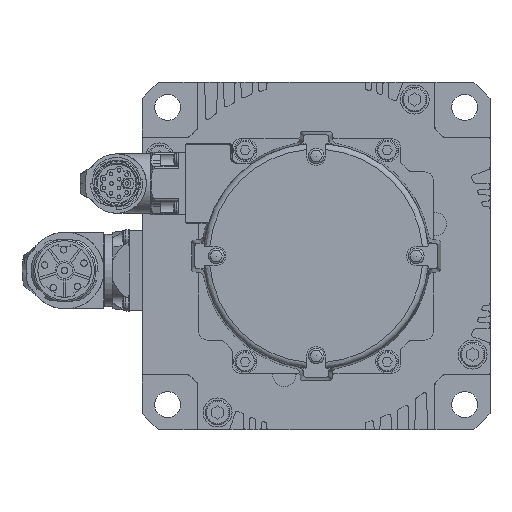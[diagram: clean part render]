
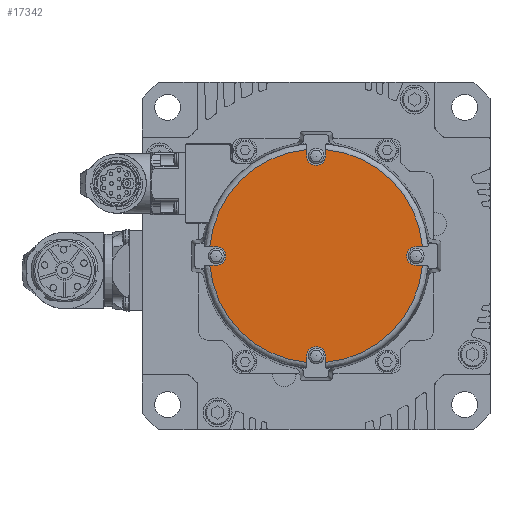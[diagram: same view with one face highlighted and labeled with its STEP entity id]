
A CAD part, left-side view. The second image highlights one B-rep face of the part: STEP entity #17342.
In plain terms, the highlighted planar face has unit normal (-1, 0, 0).
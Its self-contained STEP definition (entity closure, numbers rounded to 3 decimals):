
#853=LINE('',#26686,#2320);
#854=LINE('',#26690,#2321);
#855=LINE('',#26694,#2322);
#856=LINE('',#26698,#2323);
#857=LINE('',#26702,#2324);
#858=LINE('',#26706,#2325);
#859=LINE('',#26710,#2326);
#860=LINE('',#26714,#2327);
#2320=VECTOR('',#20947,1000.);
#2321=VECTOR('',#20950,1000.);
#2322=VECTOR('',#20953,1000.);
#2323=VECTOR('',#20956,1000.);
#2324=VECTOR('',#20959,1000.);
#2325=VECTOR('',#20962,1000.);
#2326=VECTOR('',#20965,1000.);
#2327=VECTOR('',#20968,1000.);
#3985=ORIENTED_EDGE('',*,*,#9243,.T.);
#3986=ORIENTED_EDGE('',*,*,#9244,.F.);
#3987=ORIENTED_EDGE('',*,*,#9245,.F.);
#3988=ORIENTED_EDGE('',*,*,#9246,.F.);
#3989=ORIENTED_EDGE('',*,*,#9247,.T.);
#3990=ORIENTED_EDGE('',*,*,#9248,.F.);
#3991=ORIENTED_EDGE('',*,*,#9249,.F.);
#3992=ORIENTED_EDGE('',*,*,#9250,.F.);
#3993=ORIENTED_EDGE('',*,*,#9251,.T.);
#3994=ORIENTED_EDGE('',*,*,#9252,.F.);
#3995=ORIENTED_EDGE('',*,*,#9253,.F.);
#3996=ORIENTED_EDGE('',*,*,#9254,.F.);
#3997=ORIENTED_EDGE('',*,*,#9255,.T.);
#3998=ORIENTED_EDGE('',*,*,#9256,.F.);
#3999=ORIENTED_EDGE('',*,*,#9257,.F.);
#4000=ORIENTED_EDGE('',*,*,#9258,.F.);
#9243=EDGE_CURVE('',#11870,#11871,#13536,.T.);
#9244=EDGE_CURVE('',#11872,#11871,#853,.T.);
#9245=EDGE_CURVE('',#11873,#11872,#13537,.T.);
#9246=EDGE_CURVE('',#11874,#11873,#854,.T.);
#9247=EDGE_CURVE('',#11874,#11875,#13538,.T.);
#9248=EDGE_CURVE('',#11876,#11875,#855,.T.);
#9249=EDGE_CURVE('',#11877,#11876,#13539,.T.);
#9250=EDGE_CURVE('',#11878,#11877,#856,.T.);
#9251=EDGE_CURVE('',#11878,#11879,#13540,.T.);
#9252=EDGE_CURVE('',#11880,#11879,#857,.T.);
#9253=EDGE_CURVE('',#11881,#11880,#13541,.T.);
#9254=EDGE_CURVE('',#11882,#11881,#858,.T.);
#9255=EDGE_CURVE('',#11882,#11883,#13542,.T.);
#9256=EDGE_CURVE('',#11884,#11883,#859,.T.);
#9257=EDGE_CURVE('',#11885,#11884,#13543,.T.);
#9258=EDGE_CURVE('',#11870,#11885,#860,.T.);
#11870=VERTEX_POINT('',#26684);
#11871=VERTEX_POINT('',#26685);
#11872=VERTEX_POINT('',#26687);
#11873=VERTEX_POINT('',#26689);
#11874=VERTEX_POINT('',#26691);
#11875=VERTEX_POINT('',#26693);
#11876=VERTEX_POINT('',#26695);
#11877=VERTEX_POINT('',#26697);
#11878=VERTEX_POINT('',#26699);
#11879=VERTEX_POINT('',#26701);
#11880=VERTEX_POINT('',#26703);
#11881=VERTEX_POINT('',#26705);
#11882=VERTEX_POINT('',#26707);
#11883=VERTEX_POINT('',#26709);
#11884=VERTEX_POINT('',#26711);
#11885=VERTEX_POINT('',#26713);
#13536=CIRCLE('',#18585,3.25);
#13537=CIRCLE('',#18586,36.85);
#13538=CIRCLE('',#18587,3.25);
#13539=CIRCLE('',#18588,36.85);
#13540=CIRCLE('',#18589,3.25);
#13541=CIRCLE('',#18590,36.85);
#13542=CIRCLE('',#18591,3.25);
#13543=CIRCLE('',#18592,36.85);
#14369=EDGE_LOOP('',(#3985,#3986,#3987,#3988,#3989,#3990,#3991,#3992,#3993,
#3994,#3995,#3996,#3997,#3998,#3999,#4000));
#15601=FACE_BOUND('',#14369,.T.);
#16820=PLANE('',#18584);
#17342=ADVANCED_FACE('',(#15601),#16820,.F.);
#18584=AXIS2_PLACEMENT_3D('',#26682,#20943,#20944);
#18585=AXIS2_PLACEMENT_3D('',#26683,#20945,#20946);
#18586=AXIS2_PLACEMENT_3D('',#26688,#20948,#20949);
#18587=AXIS2_PLACEMENT_3D('',#26692,#20951,#20952);
#18588=AXIS2_PLACEMENT_3D('',#26696,#20954,#20955);
#18589=AXIS2_PLACEMENT_3D('',#26700,#20957,#20958);
#18590=AXIS2_PLACEMENT_3D('',#26704,#20960,#20961);
#18591=AXIS2_PLACEMENT_3D('',#26708,#20963,#20964);
#18592=AXIS2_PLACEMENT_3D('',#26712,#20966,#20967);
#20943=DIRECTION('',(1.,0.,0.));
#20944=DIRECTION('',(0.,0.,-1.));
#20945=DIRECTION('',(1.,0.,0.));
#20946=DIRECTION('',(0.,0.,-1.));
#20947=DIRECTION('',(0.,-1.,0.));
#20948=DIRECTION('',(1.,0.,0.));
#20949=DIRECTION('',(0.,0.,-1.));
#20950=DIRECTION('',(0.,0.,-1.));
#20951=DIRECTION('',(1.,0.,0.));
#20952=DIRECTION('',(0.,0.,-1.));
#20953=DIRECTION('',(0.,0.,1.));
#20954=DIRECTION('',(1.,0.,0.));
#20955=DIRECTION('',(0.,0.,-1.));
#20956=DIRECTION('',(0.,-1.,0.));
#20957=DIRECTION('',(1.,0.,0.));
#20958=DIRECTION('',(0.,0.,-1.));
#20959=DIRECTION('',(0.,1.,0.));
#20960=DIRECTION('',(1.,0.,0.));
#20961=DIRECTION('',(0.,0.,-1.));
#20962=DIRECTION('',(0.,0.,1.));
#20963=DIRECTION('',(1.,0.,0.));
#20964=DIRECTION('',(0.,0.,-1.));
#20965=DIRECTION('',(0.,0.,-1.));
#20966=DIRECTION('',(1.,0.,0.));
#20967=DIRECTION('',(0.,0.,-1.));
#20968=DIRECTION('',(0.,1.,0.));
#26682=CARTESIAN_POINT('',(-213.,0.,0.));
#26683=CARTESIAN_POINT('',(-213.,34.5,0.));
#26684=CARTESIAN_POINT('',(-213.,34.5,3.25));
#26685=CARTESIAN_POINT('',(-213.,34.5,-3.25));
#26686=CARTESIAN_POINT('',(-213.,38.166,-3.25));
#26687=CARTESIAN_POINT('',(-213.,36.706,-3.25));
#26688=CARTESIAN_POINT('',(-213.,0.,0.));
#26689=CARTESIAN_POINT('',(-213.,3.25,-36.706));
#26690=CARTESIAN_POINT('',(-213.,3.25,-34.5));
#26691=CARTESIAN_POINT('',(-213.,3.25,-34.5));
#26692=CARTESIAN_POINT('',(-213.,0.,-34.5));
#26693=CARTESIAN_POINT('',(-213.,-3.25,-34.5));
#26694=CARTESIAN_POINT('',(-213.,-3.25,-38.166));
#26695=CARTESIAN_POINT('',(-213.,-3.25,-36.706));
#26696=CARTESIAN_POINT('',(-213.,0.,0.));
#26697=CARTESIAN_POINT('',(-213.,-36.706,-3.25));
#26698=CARTESIAN_POINT('',(-213.,-34.5,-3.25));
#26699=CARTESIAN_POINT('',(-213.,-34.5,-3.25));
#26700=CARTESIAN_POINT('',(-213.,-34.5,0.));
#26701=CARTESIAN_POINT('',(-213.,-34.5,3.25));
#26702=CARTESIAN_POINT('',(-213.,-38.166,3.25));
#26703=CARTESIAN_POINT('',(-213.,-36.706,3.25));
#26704=CARTESIAN_POINT('',(-213.,0.,0.));
#26705=CARTESIAN_POINT('',(-213.,-3.25,36.706));
#26706=CARTESIAN_POINT('',(-213.,-3.25,34.5));
#26707=CARTESIAN_POINT('',(-213.,-3.25,34.5));
#26708=CARTESIAN_POINT('',(-213.,0.,34.5));
#26709=CARTESIAN_POINT('',(-213.,3.25,34.5));
#26710=CARTESIAN_POINT('',(-213.,3.25,38.166));
#26711=CARTESIAN_POINT('',(-213.,3.25,36.706));
#26712=CARTESIAN_POINT('',(-213.,0.,0.));
#26713=CARTESIAN_POINT('',(-213.,36.706,3.25));
#26714=CARTESIAN_POINT('',(-213.,34.5,3.25));
